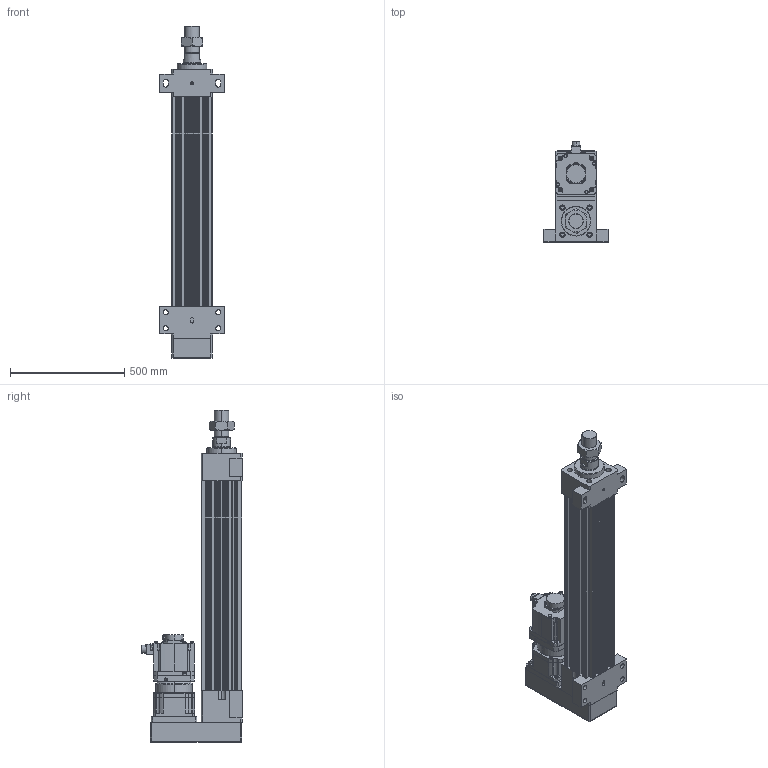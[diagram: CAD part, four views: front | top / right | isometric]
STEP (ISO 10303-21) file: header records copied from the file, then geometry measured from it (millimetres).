
FILE_DESCRIPTION (( 'STEP AP203' ), '1' );
FILE_NAME ('HES180HS-P600-W050G00-M-FFB.STEP', '2023-02-01T06:50:54', ( 'tms' ), ( '' ), 'SwSTEP 2.0', 'SolidWorks 2013', '' );
FILE_SCHEMA (( 'CONFIG_CONTROL_DESIGN' ));
Length unit declared in the file: millimetre
Products named in the file (9): AB1801; P0403600401; HG-SR502; HES180 ROD M ST600; HES180HS-P600-W050G00-M-FFB; HES180-P600-G180-FFB; M64X2.0P; AB180-003[HG-SR702B]; P1301600001
Assembly tree (8 placements, depth 3):
  HES180HS-P600-W050G00-M-FFB
    HES180-P600-G180-FFB
    HES180 ROD M ST600
    M64X2.0P
    AB180-003[HG-SR702B]
      AB1801
      P1301600001
      P0403600401
    HG-SR502
Bounding box: 280 x 438.85 x 1452 mm (x, y, z)
Volume: 31716211.8 mm3; surface area: 2804893.8 mm2
Topology: 4 solids, 19 shells, 1446 faces, 3761 edges, 2443 vertices
Faces by surface type: cylinder 668, plane 567, cone 144, bspline 63, torus 4
Entity records: 53114 total; most frequent: CARTESIAN_POINT 16078, DIRECTION 7777, ORIENTED_EDGE 7426, EDGE_CURVE 3737, AXIS2_PLACEMENT_3D 2922, VERTEX_POINT 2443, VECTOR 1933, LINE 1933
